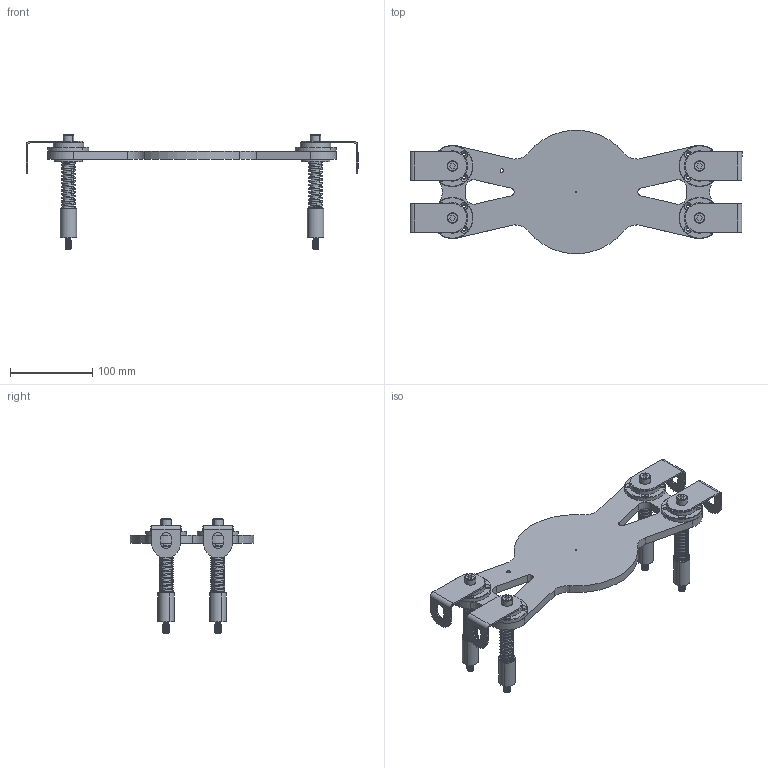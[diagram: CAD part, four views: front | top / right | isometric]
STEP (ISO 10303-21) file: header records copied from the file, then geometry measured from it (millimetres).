
FILE_DESCRIPTION (( 'STEP AP203' ), '1' );
FILE_NAME ('Floating attachment 300x63.STEP', '2020-04-07T04:53:51', ( '' ), ( '' ), 'SwSTEP 2.0', 'SolidWorks 2019', '' );
FILE_SCHEMA (( 'CONFIG_CONTROL_DESIGN' ));
Length unit declared in the file: millimetre
Products named in the file (1): Floating attachment 300x63
Bounding box: 403 x 149.51 x 139 mm (x, y, z)
Surface area: 173767.8 mm2 (no closed solid volume)
Topology: 0 solids, 45 shells, 628 faces, 1704 edges, 1130 vertices
Faces by surface type: cylinder 302, plane 154, cone 88, bspline 44, torus 40
Entity records: 52169 total; most frequent: CARTESIAN_POINT 36545, DIRECTION 3336, ORIENTED_EDGE 3090, EDGE_CURVE 1704, AXIS2_PLACEMENT_3D 1337, VERTEX_POINT 1130, CIRCLE 752, EDGE_LOOP 744
